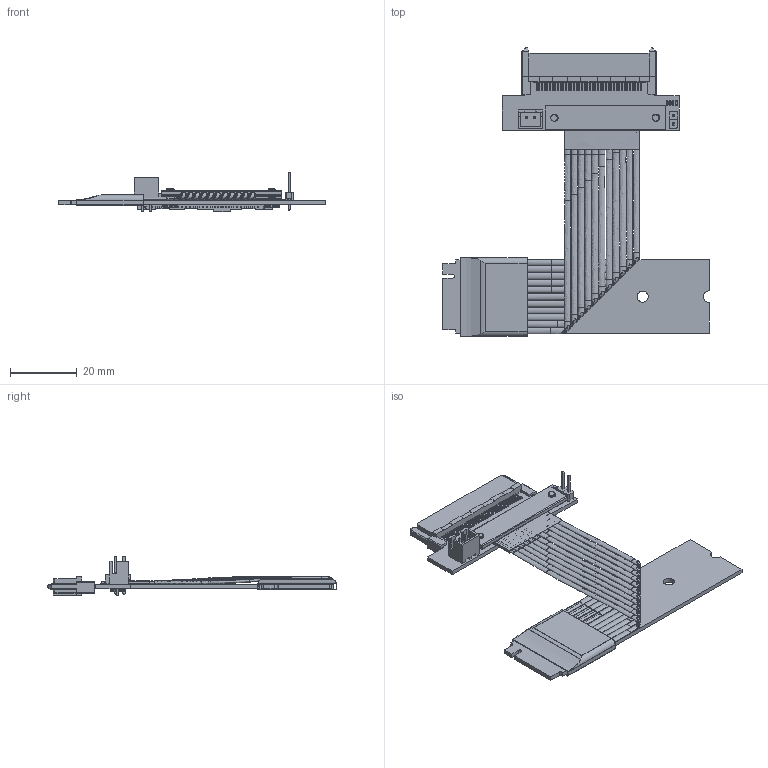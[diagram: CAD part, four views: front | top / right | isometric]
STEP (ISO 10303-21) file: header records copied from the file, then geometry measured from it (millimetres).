
FILE_DESCRIPTION(('Open CASCADE Model'),'2;1');
FILE_NAME('Open CASCADE Shape Model','2025-08-13T13:33:12',('Author'),( 'Open CASCADE'),'Open CASCADE STEP processor 7.5','Open CASCADE 7.5' ,'Unknown');
FILE_SCHEMA(('AUTOMOTIVE_DESIGN { 1 0 10303 214 1 1 1 1 }'));
Length unit declared in the file: millimetre
Products named in the file (61): PCB; Board; Open CASCADE STEP translator 7.5 3.1.1; R6; 0603_RES; Capsule; Encapsulation; TopCover; R5; D2; LED AP1608; CN2; JST 2pin; CN3; BPSC-02; 1; Pino; Base; 2; Pino001; Base001; CN1; 68F-SS10-0115-00.step; Free-Models; K43SL 5P ºۉ«±¡¿֛П 20250811 (2); K43SL 6P ºۉ«±¡¿֛П 20250811 (2); K4±¡¿ Sэ HST 20250731; R4S HST 20220711_RGB4408131; K1S-A 20221109; M2 H=5mm 20220810_RGB1315860
Assembly tree (64 placements, depth 5):
  PCB
    Board
      Open CASCADE STEP translator 7.5 3.1.1
    R6
      0603_RES
        Capsule
        Encapsulation  x2
        TopCover
    R5
      0603_RES
        Capsule
        Encapsulation  x2
        TopCover
    D2
      LED AP1608
    CN2
      JST 2pin
    CN3
      BPSC-02
        1
          Pino
          Base
        2
          Pino001
          Base001
    CN1
      68F-SS10-0115-00.step  x2
      68F-SS10-0115-00.step
    Free-Models
      K43SL 5P ºۉ«±¡¿֛П 20250811 (2)
      K43SL 5P ºۉ«±¡¿֛П 20250811 (2)
      K43SL 5P ºۉ«±¡¿֛П 20250811 (2)
      K43SL 5P ºۉ«±¡¿֛П 20250811 (2)
      K43SL 5P ºۉ«±¡¿֛П 20250811 (2)
      K43SL 5P ºۉ«±¡¿֛П 20250811 (2)
      K43SL 5P ºۉ«±¡¿֛П 20250811 (2)
      K43SL 5P ºۉ«±¡¿֛П 20250811 (2)
      K43SL 5P ºۉ«±¡¿֛П 20250811 (2)
      K43SL 5P ºۉ«±¡¿֛П 20250811 (2)
      K43SL 5P ºۉ«±¡¿֛П 20250811 (2)
      K43SL 5P ºۉ«±¡¿֛П 20250811 (2)
      K43SL 5P ºۉ«±¡¿֛П 20250811 (2)
      K43SL 5P ºۉ«±¡¿֛П 20250811 (2)
      K43SL 6P ºۉ«±¡¿֛П 20250811 (2)
      K43SL 6P ºۉ«±¡¿֛П 20250811 (2)
      K43SL 6P ºۉ«±¡¿֛П 20250811 (2)
      K43SL 6P ºۉ«±¡¿֛П 20250811 (2)
      K43SL 6P ºۉ«±¡¿֛П 20250811 (2)
      K43SL 6P ºۉ«±¡¿֛П 20250811 (2)
      K43SL 6P ºۉ«±¡¿֛П 20250811 (2)
      K43SL 6P ºۉ«±¡¿֛П 20250811 (2)
      K43SL 6P ºۉ«±¡¿֛П 20250811 (2)
      K43SL 6P ºۉ«±¡¿֛П 20250811 (2)
      K43SL 6P ºۉ«±¡¿֛П 20250811 (2)
      K43SL 6P ºۉ«±¡¿֛П 20250811 (2)
      K43SL 6P ºۉ«±¡¿֛П 20250811 (2)
      K43SL 6P ºۉ«±¡¿֛П 20250811 (2)
      K43SL 6P ºۉ«±¡¿֛П 20250811 (2)
      K43SL 6P ºۉ«±¡¿֛П 20250811 (2)
      K43SL 6P ºۉ«±¡¿֛П 20250811 (2)
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Bounding box: 80.01 x 86.63 x 11.92 mm (x, y, z)
Volume: 8002.7 mm3; surface area: 24811.7 mm2
Topology: 59 solids, 59 shells, 7930 faces, 22455 edges, 14480 vertices
Faces by surface type: plane 6013, bspline 1074, cylinder 759, extrusion 65, sphere 11, torus 8
Full cylindrical faces by diameter (mm): 0.2 x88, 0.254 x88, 0.63 x42, 1.05 x4, 2.2 x3, 3.3 x3
Entity records: 334935 total; most frequent: CARTESIAN_POINT 141448, ORIENTED_EDGE 32478, DIRECTION 25217, EDGE_CURVE 16239, VECTOR 12367, LINE 12302, VERTEX_POINT 10503, AXIS2_PLACEMENT_3D 6425
